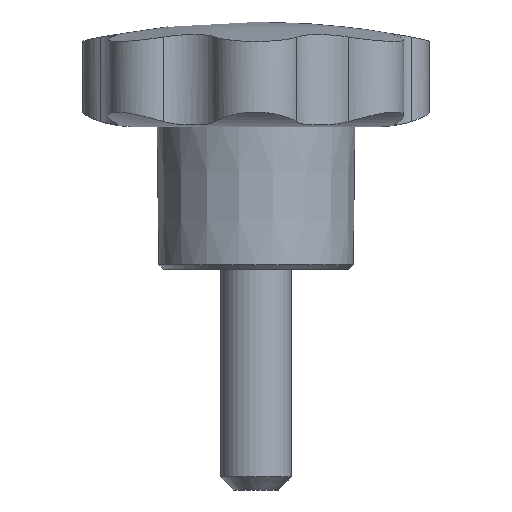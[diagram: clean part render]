
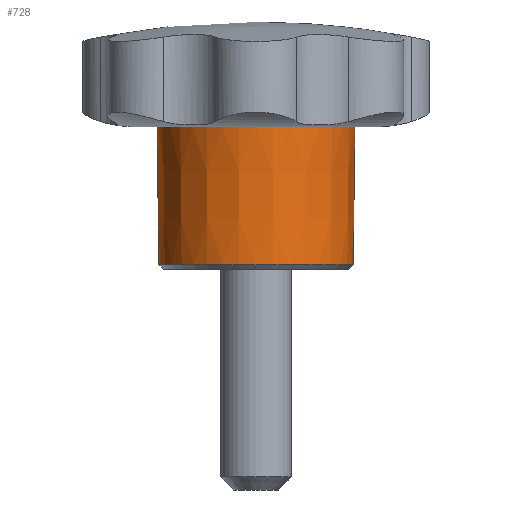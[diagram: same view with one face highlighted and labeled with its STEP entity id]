
A CAD part, front view. The second image highlights one B-rep face of the part: STEP entity #728.
In plain terms, the highlighted conical face has half-angle 0.71 degrees and reference radius 11.006 mm.
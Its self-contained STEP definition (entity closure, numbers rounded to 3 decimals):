
#692=CARTESIAN_POINT('',(11.2,0.,16.15));
#693=VERTEX_POINT('',#692);
#694=CARTESIAN_POINT('',(0.,0.,16.15));
#695=DIRECTION('',(1.,0.,0.));
#696=DIRECTION('',(0.,0.,1.));
#697=AXIS2_PLACEMENT_3D('',#694,#696,#695);
#698=CIRCLE('',#697,11.2);
#699=EDGE_CURVE('',#693,#693,#698,.T.);
#704=CARTESIAN_POINT('',(0.,0.,0.5));
#705=DIRECTION('',(1.,0.,0.));
#706=DIRECTION('',(0.,0.,1.));
#707=AXIS2_PLACEMENT_3D('',#704,#706,#705);
#708=CONICAL_SURFACE('',#707,11.006,0.012);
#709=CARTESIAN_POINT('',(11.006,0.,0.5));
#710=VERTEX_POINT('',#709);
#711=CARTESIAN_POINT('',(11.006,0.,0.5));
#712=DIRECTION('',(0.012,0.,1.));
#713=VECTOR('',#712,15.651);
#714=LINE('',#711,#713);
#715=EDGE_CURVE('',#710,#693,#714,.T.);
#716=ORIENTED_EDGE('E2',*,*,#715,.T.);
#717=ORIENTED_EDGE('E2',*,*,#699,.T.);
#718=ORIENTED_EDGE('E2',*,*,#715,.F.);
#719=CARTESIAN_POINT('',(0.,0.,0.5));
#720=DIRECTION('',(1.,0.,-0.));
#721=DIRECTION('',(0.,0.,1.));
#722=AXIS2_PLACEMENT_3D('',#719,#721,#720);
#723=CIRCLE('',#722,11.006);
#724=EDGE_CURVE('',#710,#710,#723,.T.);
#725=ORIENTED_EDGE('E7',*,*,#724,.F.);
#726=EDGE_LOOP('',(#716,#717,#718,#725));
#727=FACE_OUTER_BOUND('',#726,.F.);
#728=ADVANCED_FACE('F3',(#727),#708,.T.);
